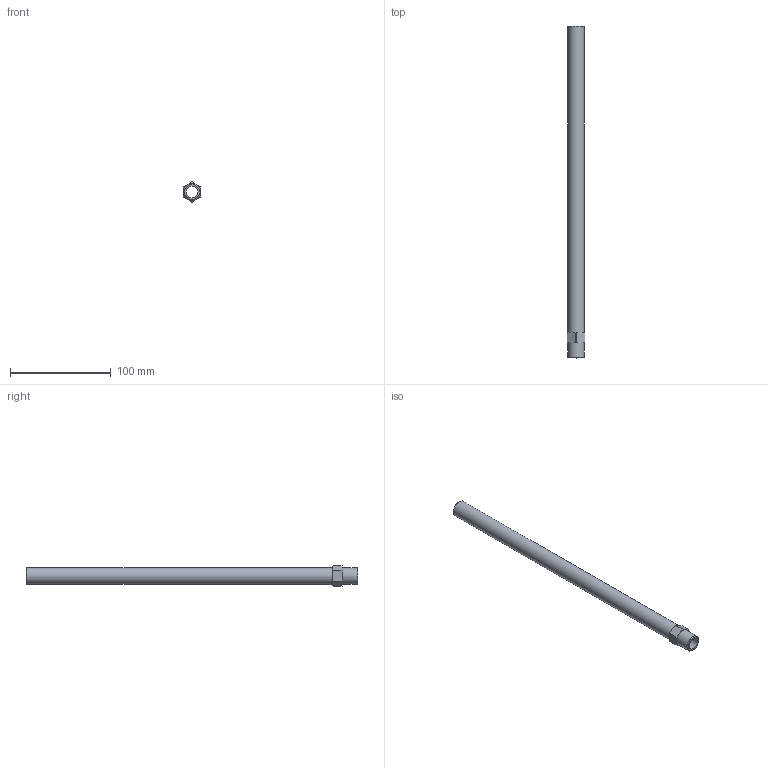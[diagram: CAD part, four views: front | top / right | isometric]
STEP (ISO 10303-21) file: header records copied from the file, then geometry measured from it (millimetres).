
FILE_DESCRIPTION(/* description */ (''),/* implementation_level */ '2;1');
FILE_NAME(/* name */ 'C:/Users/drich/Desktop/APN38-13 v1.step',/* time_stamp */ '2019-12-27T17:55:17-06:00',/* author */ (''),/* organization */ (''),/* preprocessor_version */ 'ST-DEVELOPER v18',/* originating_system */ 'Autodesk Translation Framework v8.12.0.6',/* authorisation */ '');
FILE_SCHEMA (('AUTOMOTIVE_DESIGN { 1 0 10303 214 3 1 1 }'));
Length unit declared in the file: inch
Products named in the file (1): APN38-13
Bounding box: 17.45 x 330.2 x 20.12 mm (x, y, z)
Volume: 34733.5 mm3; surface area: 29807.9 mm2
Topology: 1 solids, 1 shells, 33 faces, 89 edges, 60 vertices
Faces by surface type: cone 14, plane 10, cylinder 9
Full cylindrical faces by diameter (mm): 11.887 x1, 16.537 x2
Entity records: 1077 total; most frequent: CARTESIAN_POINT 231, ORIENTED_EDGE 178, DIRECTION 169, EDGE_CURVE 89, AXIS2_PLACEMENT_3D 70, VERTEX_POINT 60, EDGE_LOOP 37, CIRCLE 36
